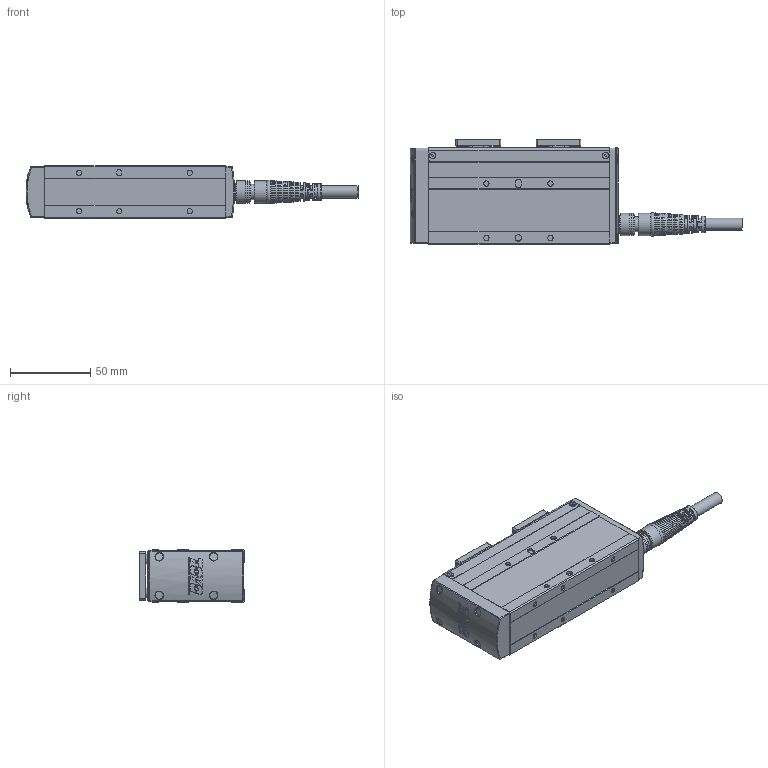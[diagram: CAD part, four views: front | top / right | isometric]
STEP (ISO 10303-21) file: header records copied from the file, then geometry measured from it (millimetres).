
FILE_DESCRIPTION(/* description */ ('STEP AP203'),/* implementation_level */ '2;1');
FILE_NAME(/* name */ 'D:\2025.02.25 帶電匯整給泊舟\3. CHS2系列\4.3D組立\2B-S40\CHS2B-S40-180.stp',/* time_stamp */ '2025-02-25T17:47:53+08:00',/* author */ ('T10033'),/* organization */ (''),/* preprocessor_version */ 'ST-DEVELOPER v18.1',/* originating_system */ 'Autodesk Inventor 2020',/* authorisation */ '');
FILE_SCHEMA (('CONFIG_CONTROL_DESIGN'));
Products named in the file (7): CHS2C-S40; iso 4762 m2.5 x 6 - 6s_ISO 4762 M2.5 x 6 - 6S; M12 -14PIN  板端-第一種規格; 43T63W4YGT_Shrinkwrap_1; M12-14PIN 線端180度接頭-05中繼線; 12004-000154-03; 22012-000313_M3L10內六角
Assembly tree (15 placements, depth 2):
  CHS2C-S40
    iso 4762 m2.5 x 6 - 6s_ISO 4762 M2.5 x 6 - 6S  x2
    M12 -14PIN  板端-第一種規格
    43T63W4YGT_Shrinkwrap_1
    M12-14PIN 線端180度接頭-05中繼線
    12004-000154-03  x2
    22012-000313_M3L10內六角  x8
Bounding box: 207.32 x 65.5 x 33 mm (x, y, z)
Volume: 258485.4 mm3; surface area: 48060.9 mm2
Topology: 32 solids, 32 shells, 2443 faces, 7074 edges, 4819 vertices
Faces by surface type: plane 1058, cone 606, cylinder 541, bspline 168, torus 66, sphere 4
Full cylindrical faces by diameter (mm): 0.6 x14, 0.65 x14, 0.8 x2, 1 x14, 2 x6, 2.5 x30, 3 x149, 3.2 x8, 3.3 x12, 3.8 x4, 4 x2, 4.5 x2, 5.5 x8, 6 x8, 7.5 x1, 8 x1, 8.9 x1, 9.5 x2, 9.6 x1, 10.5 x2, 11 x1, 11.2 x5, 12 x1, 13 x1, 13.8 x1, 14 x2, 18.079 x1
Entity records: 77101 total; most frequent: CARTESIAN_POINT 27520, ORIENTED_EDGE 10132, DIRECTION 10119, EDGE_CURVE 5066, AXIS2_PLACEMENT_3D 3873, VERTEX_POINT 3403, LINE 2373, VECTOR 2373
